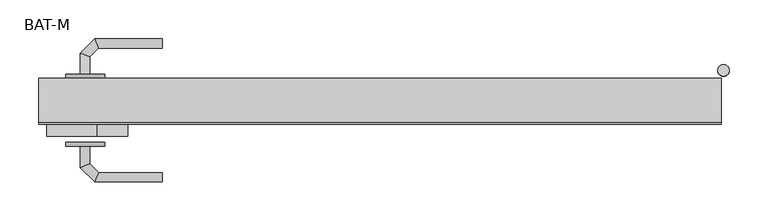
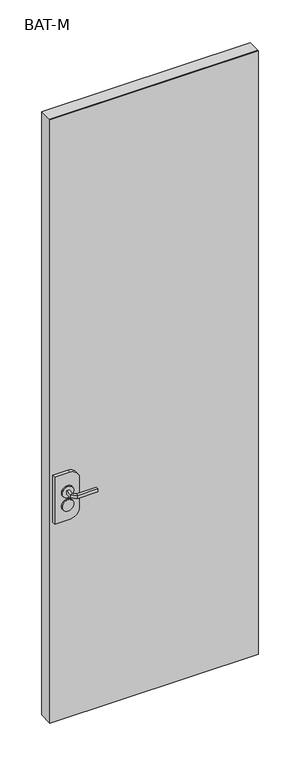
"""IFC4 building model written with IfcOpenShell, lengths in millimetres: proxy geometry, BAT-M : 94-GOALFVITRE."""

from ifc_helpers import new_model, si_unit, point, frame, frame_2d, origin, place, context, project, spatial, polyline, circle_curve, ellipse_curve, trimmed, segment, composite_curve, outline, extrude, source, transform, mapped, element, save
from ifc_brep_helpers import plane_surface, cylinder_surface, advanced_brep


def bat_m_2c35a260(model_context):
    return source(origin(), model_context, "Body", "SolidModel", [
        extrude(outline(composite_curve([segment(polyline([(1126.0, -810.7306002), (1126.0, -875.7306002), (916.0, -875.7306002), (916.0, -810.7306002)]), True, "CONTINUOUS"), segment(trimmed(circle_curve(frame_2d((956.0, -810.7306002)), 40.0), [point((916.0, -810.7306002))], [point((956.0, -770.7306002))], False, "CARTESIAN"), True, "CONTINUOUS"), segment(polyline([(956.0, -770.7306002), (1086.0, -770.7306002)]), True, "CONTINUOUS"), segment(trimmed(circle_curve(frame_2d((1086.0, -810.7306002)), 40.0), [point((1086.0, -770.7306002))], [point((1126.0, -810.7306002))], False, "CARTESIAN"), True, "CONTINUOUS")], self_intersect=False)), frame((0.0, -74.8400086, 0.0), z_axis=(0.0, 1.0, 0.0), x_axis=(0.0, 0.0, 1.0)), (0.0, 0.0, 1.0), 66.9267377),
        extrude(outline(composite_curve([segment(trimmed(circle_curve(frame_2d((1051.0, -825.9739009)), 25.0), [point((1051.0, -850.9739009))], [point((1051.0, -800.9739009))], False, "CARTESIAN"), True, "CONTINUOUS"), segment(trimmed(circle_curve(frame_2d((1051.0, -825.9739009)), 25.0), [point((1051.0, -800.9739009))], [point((1051.0, -850.9739009))], False, "CARTESIAN"), True, "CONTINUOUS")], self_intersect=False)), frame((0.0, -88.0, 0.0), z_axis=(0.0, 1.0, 0.0), x_axis=(0.0, 0.0, 1.0)), (0.0, 0.0, 1.0), 5.0),
        extrude(outline(composite_curve([segment(trimmed(circle_curve(frame_2d((991.25, -826.1257392)), 25.0), [point((991.25, -851.1257392))], [point((991.25, -801.1257392))], False, "CARTESIAN"), True, "CONTINUOUS"), segment(trimmed(circle_curve(frame_2d((991.25, -826.1257392)), 25.0), [point((991.25, -801.1257392))], [point((991.25, -851.1257392))], False, "CARTESIAN"), True, "CONTINUOUS")], self_intersect=False)), frame((0.0, -88.0, 0.0), z_axis=(0.0, 1.0, 0.0), x_axis=(0.0, 0.0, 1.0)), (0.0, 0.0, 1.0), 5.0),
        advanced_brep(
        [(-820.2, -88.0, 1044.0), (-832.2, -88.0, 1044.0), (-832.2, -88.0, 1058.0), (-820.2, -88.0, 1058.0), (-820.2, -110.4852045, 1058.0), (-820.2, -110.4852045, 1044.0), (-832.2, -115.4557673, 1058.0), (-832.2, -115.4557673, 1044.0), (-808.7147186, -121.9704859, 1058.0), (-808.7147186, -121.9704859, 1044.0), (-813.6852814, -133.9704859, 1058.0), (-813.6852814, -133.9704859, 1044.0), (-726.1542163, -121.9704859, 1044.0), (-726.1542163, -121.9704859, 1058.0), (-726.1542163, -133.9704859, 1058.0), (-726.1542163, -133.9704859, 1044.0)],
        [
            (0, 1, circle_curve(frame((-826.2, -88.0, 1064.0457722), z_axis=(0.0, 1.0, 0.0), x_axis=(-1.0, 0.0, 0.0)), 20.9244589)),
            (1, 2),
            (2, 3, circle_curve(frame((-826.2, -88.0, 1037.9542278), z_axis=(0.0, 1.0, 0.0), x_axis=(-1.0, 0.0, 0.0)), 20.9244589)),
            (3, 0),
            (3, 4),
            (4, 5),
            (5, 0),
            (2, 6),
            (6, 4, ellipse_curve(frame((-826.2, -112.9704859, 1037.9542278), z_axis=(-0.3826834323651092, 0.9238795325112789, 0.0), x_axis=(0.9238795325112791, 0.3826834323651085, 0.0)), 22.6484711, 20.9244589)),
            (1, 7),
            (7, 6),
            (5, 7, ellipse_curve(frame((-826.2, -112.9704859, 1064.0457722), z_axis=(-0.3826834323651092, 0.9238795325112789, 0.0), x_axis=(0.9238795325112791, 0.3826834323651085, 0.0)), 22.6484711, 20.9244589)),
            (4, 8),
            (8, 9),
            (9, 5),
            (6, 10),
            (10, 8, ellipse_curve(frame((-811.2, -127.9704859, 1037.9542278), z_axis=(-0.923879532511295, 0.38268343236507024, 0.0), x_axis=(0.3826834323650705, 0.9238795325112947, 0.0)), 22.6484711, 20.9244589)),
            (7, 11),
            (11, 10),
            (9, 11, ellipse_curve(frame((-811.2, -127.9704859, 1064.0457722), z_axis=(-0.923879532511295, 0.38268343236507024, 0.0), x_axis=(0.3826834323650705, 0.9238795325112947, 0.0)), 22.6484711, 20.9244589)),
            (12, 13),
            (13, 14, circle_curve(frame((-726.1542163, -127.9704859, 1037.9542278), z_axis=(1.0, 0.0, 0.0), x_axis=(0.0, -1.0, 0.0)), 20.9244589)),
            (14, 15),
            (15, 12, circle_curve(frame((-726.1542163, -127.9704859, 1064.0457722), z_axis=(1.0, 0.0, 0.0), x_axis=(0.0, -1.0, 0.0)), 20.9244589)),
            (8, 13),
            (12, 9),
            (10, 14),
            (11, 15),
        ],
        [
            plane_surface(frame((-835.4195445, -88.0, 1051.0), z_axis=(0.0, 1.0, 0.0), x_axis=(0.0, 0.0, 1.0))),
            plane_surface(frame((-820.2, -88.0, 1044.0), z_axis=(1.0, 0.0, 0.0), x_axis=(0.0, -1.0, 0.0))),
            cylinder_surface(frame((-826.2, -88.0, 1037.9542278), z_axis=(0.0, 1.0, 0.0), x_axis=(-1.0, 0.0, 0.0)), 20.9244589),
            plane_surface(frame((-832.2, -88.0, 1058.0), z_axis=(-1.0, 0.0, 0.0), x_axis=(0.0, -1.0, 0.0))),
            cylinder_surface(frame((-826.2, -88.0, 1064.0457722), z_axis=(0.0, 1.0, 0.0), x_axis=(-1.0, 0.0, 0.0)), 20.9244589),
            plane_surface(frame((-820.2, -110.4852045, 1044.0), z_axis=(0.7071067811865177, 0.7071067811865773, 0.0), x_axis=(0.7071067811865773, -0.7071067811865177, 0.0))),
            cylinder_surface(frame((-826.2, -112.9704859, 1037.9542278), z_axis=(-0.7071067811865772, 0.7071067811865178, 0.0), x_axis=(-0.7071067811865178, -0.7071067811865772, 0.0)), 20.9244589),
            plane_surface(frame((-832.2, -115.4557673, 1058.0), z_axis=(-0.7071067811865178, -0.7071067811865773, 0.0), x_axis=(0.7071067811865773, -0.7071067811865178, 0.0))),
            cylinder_surface(frame((-826.2, -112.9704859, 1064.0457722), z_axis=(-0.7071067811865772, 0.7071067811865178, 0.0), x_axis=(-0.7071067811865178, -0.7071067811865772, 0.0)), 20.9244589),
            plane_surface(frame((-726.1542163, -127.9704859, 1041.7804555), z_axis=(1.0, 0.0, 0.0), x_axis=(0.0, -1.0, 0.0))),
            plane_surface(frame((-808.7147186, -121.9704859, 1044.0), z_axis=(0.0, 1.0, 0.0), x_axis=(1.0, 0.0, 0.0))),
            cylinder_surface(frame((-811.2, -127.9704859, 1037.9542278), z_axis=(-1.0, 0.0, 0.0), x_axis=(0.0, -1.0, 0.0)), 20.9244589),
            plane_surface(frame((-813.6852814, -133.9704859, 1058.0), z_axis=(0.0, -1.0, 0.0), x_axis=(1.0, 0.0, 0.0))),
            cylinder_surface(frame((-811.2, -127.9704859, 1064.0457722), z_axis=(-1.0, 0.0, 0.0), x_axis=(0.0, -1.0, 0.0)), 20.9244589),
        ],
        [
            (0, [[1, 2, 3, 4]]),
            (1, [[5, 6, 7, -4]]),
            (2, [[8, 9, -5, -3]]),
            (3, [[10, 11, -8, -2]]),
            (4, [[-7, 12, -10, -1]]),
            (5, [[13, 14, 15, -6]]),
            (6, [[16, 17, -13, -9]]),
            (7, [[18, 19, -16, -11]]),
            (8, [[-15, 20, -18, -12]]),
            (9, [[21, 22, 23, 24]]),
            (10, [[25, -21, 26, -14]]),
            (11, [[27, -22, -25, -17]]),
            (12, [[28, -23, -27, -19]]),
            (13, [[-26, -24, -28, -20]]),
        ],
    ),
        advanced_brep(
        [(-832.2, 5.0, 1058.0), (-832.2, 5.0, 1044.0), (-820.2, 5.0, 1044.0), (-820.2, 5.0, 1058.0), (-820.2, 27.680388, 1058.0), (-832.2, 32.6509507, 1058.0), (-820.2, 27.680388, 1044.0), (-832.2, 32.6509507, 1044.0), (-808.8522273, 39.0281607, 1058.0), (-813.82279, 51.0281607, 1058.0), (-808.8522273, 39.0281607, 1044.0), (-813.82279, 51.0281607, 1044.0), (-726.1813594, 51.0281607, 1058.0), (-726.1813594, 39.0281607, 1058.0), (-726.1813594, 39.0281607, 1044.0), (-726.1813594, 51.0281607, 1044.0)],
        [
            (0, 1),
            (1, 2, circle_curve(frame((-826.2, 5.0, 1064.0457722), z_axis=(0.0, -1.0, 0.0), x_axis=(1.0, 0.0, 0.0)), 20.9244589)),
            (2, 3),
            (3, 0, circle_curve(frame((-826.2, 5.0, 1037.9542278), z_axis=(0.0, -1.0, 0.0), x_axis=(1.0, 0.0, 0.0)), 20.9244589)),
            (3, 4),
            (4, 5, ellipse_curve(frame((-826.2, 30.1656693, 1037.9542278), z_axis=(-0.38268343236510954, -0.9238795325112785, 0.0), x_axis=(0.9238795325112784, -0.38268343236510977, 0.0)), 22.6484711, 20.9244589)),
            (5, 0),
            (2, 6),
            (6, 4),
            (1, 7),
            (7, 6, ellipse_curve(frame((-826.2, 30.1656693, 1064.0457722), z_axis=(-0.38268343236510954, -0.9238795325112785, 0.0), x_axis=(0.9238795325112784, -0.38268343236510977, 0.0)), 22.6484711, 20.9244589)),
            (5, 7),
            (4, 8),
            (8, 9, ellipse_curve(frame((-811.3375086, 45.0281607, 1037.9542278), z_axis=(-0.9238795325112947, -0.38268343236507, 0.0), x_axis=(0.38268343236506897, -0.9238795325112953, 0.0)), 22.6484711, 20.9244589)),
            (9, 5),
            (6, 10),
            (10, 8),
            (7, 11),
            (11, 10, ellipse_curve(frame((-811.3375086, 45.0281607, 1064.0457722), z_axis=(-0.9238795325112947, -0.38268343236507, 0.0), x_axis=(0.38268343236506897, -0.9238795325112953, 0.0)), 22.6484711, 20.9244589)),
            (9, 11),
            (12, 13, circle_curve(frame((-726.1813594, 45.0281607, 1037.9542278), z_axis=(1.0, 0.0, 0.0), x_axis=(0.0, -1.0, 0.0)), 20.9244589)),
            (13, 14),
            (14, 15, circle_curve(frame((-726.1813594, 45.0281607, 1064.0457722), z_axis=(1.0, 0.0, 0.0), x_axis=(0.0, -1.0, 0.0)), 20.9244589)),
            (15, 12),
            (8, 13),
            (12, 9),
            (10, 14),
            (11, 15),
        ],
        [
            plane_surface(frame((-835.4195445, 5.0, 1051.0), z_axis=(0.0, -1.0, 0.0), x_axis=(0.0, 0.0, -1.0))),
            cylinder_surface(frame((-826.2, 5.0, 1037.9542278), z_axis=(0.0, -1.0, 0.0), x_axis=(1.0, 0.0, 0.0)), 20.9244589),
            plane_surface(frame((-820.2, 5.0, 1058.0), z_axis=(1.0, 0.0, 0.0), x_axis=(0.0, 1.0, 0.0))),
            cylinder_surface(frame((-826.2, 5.0, 1064.0457722), z_axis=(0.0, -1.0, 0.0), x_axis=(1.0, 0.0, 0.0)), 20.9244589),
            plane_surface(frame((-832.2, 5.0, 1044.0), z_axis=(-1.0, 0.0, 0.0), x_axis=(0.0, 1.0, 0.0))),
            cylinder_surface(frame((-826.2, 30.1656693, 1037.9542278), z_axis=(-0.7071067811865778, -0.7071067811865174, 0.0), x_axis=(0.7071067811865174, -0.7071067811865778, 0.0)), 20.9244589),
            plane_surface(frame((-820.2, 27.680388, 1058.0), z_axis=(0.707106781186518, -0.7071067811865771, 0.0), x_axis=(0.7071067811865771, 0.707106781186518, 0.0))),
            cylinder_surface(frame((-826.2, 30.1656693, 1064.0457722), z_axis=(-0.7071067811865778, -0.7071067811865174, 0.0), x_axis=(0.7071067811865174, -0.7071067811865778, 0.0)), 20.9244589),
            plane_surface(frame((-832.2, 32.6509507, 1044.0), z_axis=(-0.7071067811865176, 0.7071067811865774, 0.0), x_axis=(0.7071067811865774, 0.7071067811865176, 0.0))),
            plane_surface(frame((-726.1813594, 45.0281607, 1041.7804555), z_axis=(1.0, 0.0, 0.0), x_axis=(0.0, -1.0, 0.0))),
            cylinder_surface(frame((-811.3375086, 45.0281607, 1037.9542278), z_axis=(-1.0, 0.0, 0.0), x_axis=(0.0, -1.0, 0.0)), 20.9244589),
            plane_surface(frame((-808.8522273, 39.0281607, 1058.0), z_axis=(0.0, -1.0, 0.0), x_axis=(1.0, 0.0, 0.0))),
            cylinder_surface(frame((-811.3375086, 45.0281607, 1064.0457722), z_axis=(-1.0, 0.0, 0.0), x_axis=(0.0, -1.0, 0.0)), 20.9244589),
            plane_surface(frame((-813.82279, 51.0281607, 1044.0), z_axis=(0.0, 1.0, 0.0), x_axis=(1.0, 0.0, 0.0))),
        ],
        [
            (0, [[1, 2, 3, 4]]),
            (1, [[5, 6, 7, -4]]),
            (2, [[8, 9, -5, -3]]),
            (3, [[10, 11, -8, -2]]),
            (4, [[-7, 12, -10, -1]]),
            (5, [[13, 14, 15, -6]]),
            (6, [[16, 17, -13, -9]]),
            (7, [[18, 19, -16, -11]]),
            (8, [[-15, 20, -18, -12]]),
            (9, [[21, 22, 23, 24]]),
            (10, [[25, -21, 26, -14]]),
            (11, [[27, -22, -25, -17]]),
            (12, [[28, -23, -27, -19]]),
            (13, [[-26, -24, -28, -20]]),
        ],
    ),
        extrude(outline(composite_curve([segment(trimmed(circle_curve(frame_2d((1051.0, -825.9739009)), 25.0), [point((1051.0, -850.9739009))], [point((1051.0, -800.9739009))], False, "CARTESIAN"), True, "CONTINUOUS"), segment(trimmed(circle_curve(frame_2d((1051.0, -825.9739009)), 25.0), [point((1051.0, -800.9739009))], [point((1051.0, -850.9739009))], False, "CARTESIAN"), True, "CONTINUOUS")], self_intersect=False)), frame((0.0, 0.0, 0.0), z_axis=(0.0, 1.0, 0.0), x_axis=(0.0, 0.0, 1.0)), (0.0, 0.0, 1.0), 5.0),
        extrude(outline(composite_curve([segment(trimmed(circle_curve(frame_2d((991.0, -826.1257392)), 25.0), [point((991.0, -851.1257392))], [point((991.0, -801.1257392))], False, "CARTESIAN"), True, "CONTINUOUS"), segment(trimmed(circle_curve(frame_2d((991.0, -826.1257392)), 25.0), [point((991.0, -801.1257392))], [point((991.0, -851.1257392))], False, "CARTESIAN"), True, "CONTINUOUS")], self_intersect=False)), frame((0.0, 0.0, 0.0), z_axis=(0.0, 1.0, 0.0), x_axis=(0.0, 0.0, 1.0)), (0.0, 0.0, 1.0), 5.0),
        extrude(outline(polyline([(-3.0, -57.5), (-3.0, -59.5), (-886.2, -59.5), (-886.2, -57.5), (-3.0, -57.5)])), frame((0.0, 0.0, 19.0), z_axis=(0.0, 0.0, 1.0), x_axis=(1.0, 0.0, 0.0)), (0.0, 0.0, 1.0), 2705.0),
        extrude(outline(polyline([(-886.2, -57.5), (-3.0, -57.5), (-3.0, -59.5), (-886.2, -59.5), (-886.2, -57.5)])), frame((0.0, 0.0, 19.0), z_axis=(0.0, 0.0, 1.0), x_axis=(1.0, 0.0, 0.0)), (0.0, 0.0, 1.0), 2705.0),
        extrude(outline(polyline([(-886.2, -59.5), (-886.2, 0.0), (-3.0, 0.0), (-3.0, -59.5), (-886.2, -59.5)])), frame((0.0, 0.0, 19.0), z_axis=(0.0, 0.0, 1.0), x_axis=(1.0, 0.0, 0.0)), (0.0, 0.0, 1.0), 2705.0),
        extrude(outline(composite_curve([segment(trimmed(circle_curve(frame_2d((0.0, 10.0)), 7.5), [point((7.5, 10.0))], [point((-7.5, 10.0))], False, "CARTESIAN"), True, "CONTINUOUS"), segment(trimmed(circle_curve(frame_2d((0.0, 10.0)), 7.5), [point((-7.5, 10.0))], [point((7.5, 10.0))], False, "CARTESIAN"), True, "CONTINUOUS")], self_intersect=False)), frame((0.0, 0.0, 2401.5), z_axis=(0.0, 0.0, 1.0), x_axis=(1.0, 0.0, 0.0)), (0.0, 0.0, 1.0), 115.0),
        extrude(outline(composite_curve([segment(trimmed(circle_curve(frame_2d((0.0, 10.0)), 7.5), [point((7.5, 10.0))], [point((-7.5, 10.0))], False, "CARTESIAN"), True, "CONTINUOUS"), segment(trimmed(circle_curve(frame_2d((0.0, 10.0)), 7.5), [point((-7.5, 10.0))], [point((7.5, 10.0))], False, "CARTESIAN"), True, "CONTINUOUS")], self_intersect=False)), frame((0.0, 0.0, 1848.5), z_axis=(0.0, 0.0, 1.0), x_axis=(1.0, 0.0, 0.0)), (0.0, 0.0, 1.0), 115.0),
        extrude(outline(composite_curve([segment(trimmed(circle_curve(frame_2d((0.0, 10.0)), 7.5), [point((7.5, 10.0))], [point((-7.5, 10.0))], False, "CARTESIAN"), True, "CONTINUOUS"), segment(trimmed(circle_curve(frame_2d((0.0, 10.0)), 7.5), [point((-7.5, 10.0))], [point((7.5, 10.0))], False, "CARTESIAN"), True, "CONTINUOUS")], self_intersect=False)), frame((0.0, 0.0, 226.5), z_axis=(0.0, 0.0, 1.0), x_axis=(1.0, 0.0, 0.0)), (0.0, 0.0, 1.0), 115.0),
    ])


if __name__ == "__main__":
    model = new_model("IFC4")
    model_context = context("Model", 3, world=origin())
    ifc_project = project(units=[si_unit("LENGTHUNIT", "METRE", prefix="MILLI")], contexts=[model_context])
    site = spatial("IfcSite", under=ifc_project)
    building = spatial("IfcBuilding", under=site)
    placement = place(None, origin())
    bat_m_shape = bat_m_2c35a260(model_context)
    element("IfcBuildingElementProxy", 1, Name="BAT-M : 94-GOALFVITRE", ObjectType="BAT-M : 94-GOALFVITRE", at=placement, inside=building, context=model_context, shape_type="MappedRepresentation", body=[
        mapped(bat_m_shape, transform((0.0, 0.0, 0.0), x_axis=(1.0, 0.0, 0.0), y_axis=(0.0, 1.0, 0.0), z_axis=(0.0, 0.0, 1.0))),
    ])
    save(model, "model.ifc")
